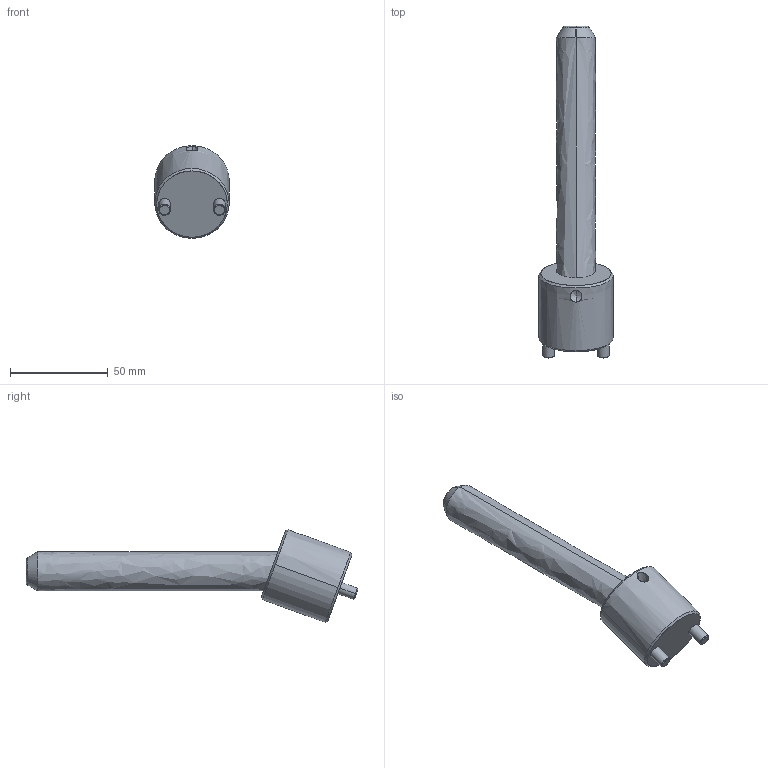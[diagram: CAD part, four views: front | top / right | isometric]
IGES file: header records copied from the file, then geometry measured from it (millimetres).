
Start section: START RECORD GO HERE.
Global section: file name: CI2020125.igs; native system: DASSAULT SYSTEMES CATIA V5 R20 - www.3ds.com; preprocessor: CATIA Version 5 Release 20 ; author: r.borello; organization: CFTORINO; date: 20190624.084221; units: millimetre
Bounding box: 38 x 169.51 x 47.34 mm (x, y, z)
Surface area: 18983.3 mm2 (no closed solid volume)
Topology: 0 solids, 0 shells, 39 faces, 162 edges, 160 vertices
Faces by surface type: revolution 32, plane 7
